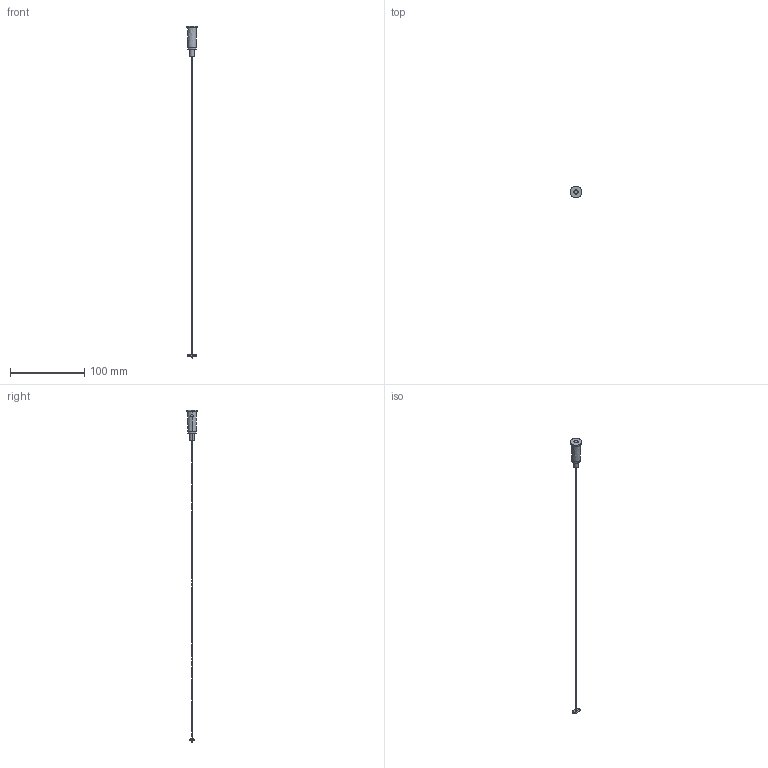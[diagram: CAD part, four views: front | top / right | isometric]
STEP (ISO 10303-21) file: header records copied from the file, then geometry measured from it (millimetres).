
FILE_DESCRIPTION(/* description */ (''),/* implementation_level */ '2;1');
FILE_NAME(/* name */ 'AoL-System-Suspension-Kit',/* time_stamp */ '2019-09-25T18:13:23+02:00',/* author */ (''),/* organization */ (''),/* preprocessor_version */ 'ST-DEVELOPER v15',/* originating_system */ '',/* authorisation */ '');
FILE_SCHEMA (('AUTOMOTIVE_DESIGN'));
Length unit declared in the file: millimetre
Products named in the file (1): Document
Bounding box: 16 x 15.97 x 446.56 mm (x, y, z)
Volume: 333.9 mm3; surface area: 3656.9 mm2
Topology: 2 solids, 4 shells, 38 faces, 82 edges, 54 vertices
Faces by surface type: bspline 24, plane 14
Entity records: 1414 total; most frequent: CARTESIAN_POINT 855, ORIENTED_EDGE 160, EDGE_CURVE 82, VERTEX_POINT 54, EDGE_LOOP 44, B_SPLINE_CURVE_WITH_KNOTS 39, ADVANCED_FACE 38, FACE_OUTER_BOUND 38
